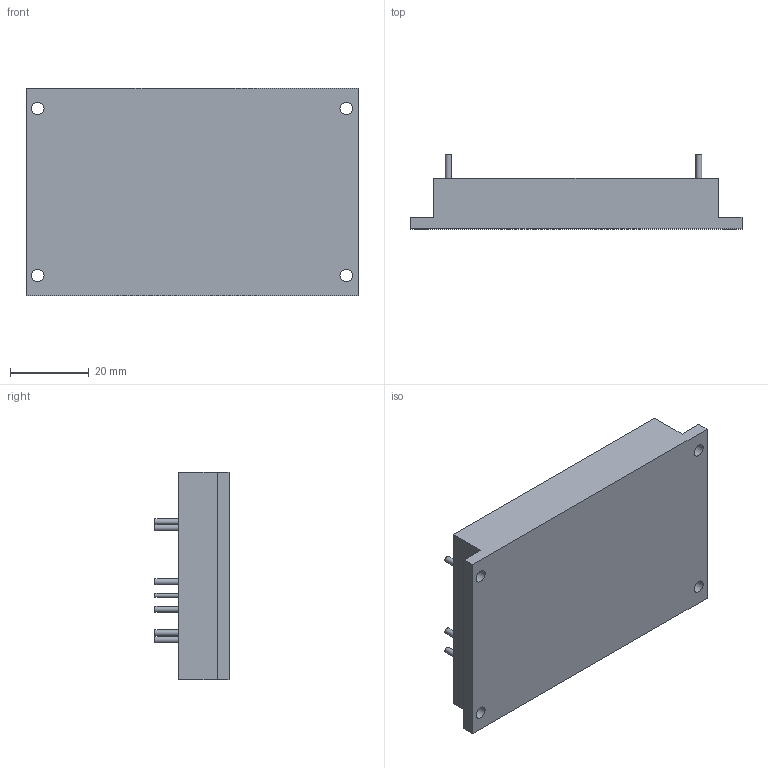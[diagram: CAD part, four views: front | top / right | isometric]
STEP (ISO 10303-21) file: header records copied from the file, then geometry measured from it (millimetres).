
FILE_DESCRIPTION((''),'2;1');
FILE_NAME('\\FILE-SERVER\Konstr\РАБОЧАЯ\Баранов А.Ю\Модули\2016\3Д модели МДМ\004 ТУ\МДМ80-1А(Б,В,Д,Ш)УВ.stp','2016-02-18T16:29:29',('ABaranov'),(''),'Autodesk Inventor 2013','Autodesk Inventor 2013','');
FILE_SCHEMA(('AUTOMOTIVE_DESIGN { 1 0 10303 214 1 1 1 1 }'));
Length unit declared in the file: millimetre
Products named in the file (1): МДМ80-1А(Б,В,Д,Ш)УВ
Bounding box: 84.5 x 18.85 x 52.7 mm (x, y, z)
Volume: 50965.7 mm3; surface area: 12463.5 mm2
Topology: 8 solids, 8 shells, 35 faces, 57 edges, 38 vertices
Faces by surface type: plane 24, cylinder 11
Full cylindrical faces by diameter (mm): 1 x1, 1.5 x6, 3.2 x4
Entity records: 835 total; most frequent: DIRECTION 140, CARTESIAN_POINT 120, ORIENTED_EDGE 92, AXIS2_PLACEMENT_3D 58, EDGE_LOOP 54, EDGE_CURVE 46, VERTEX_POINT 38, FACE_OUTER_BOUND 35
